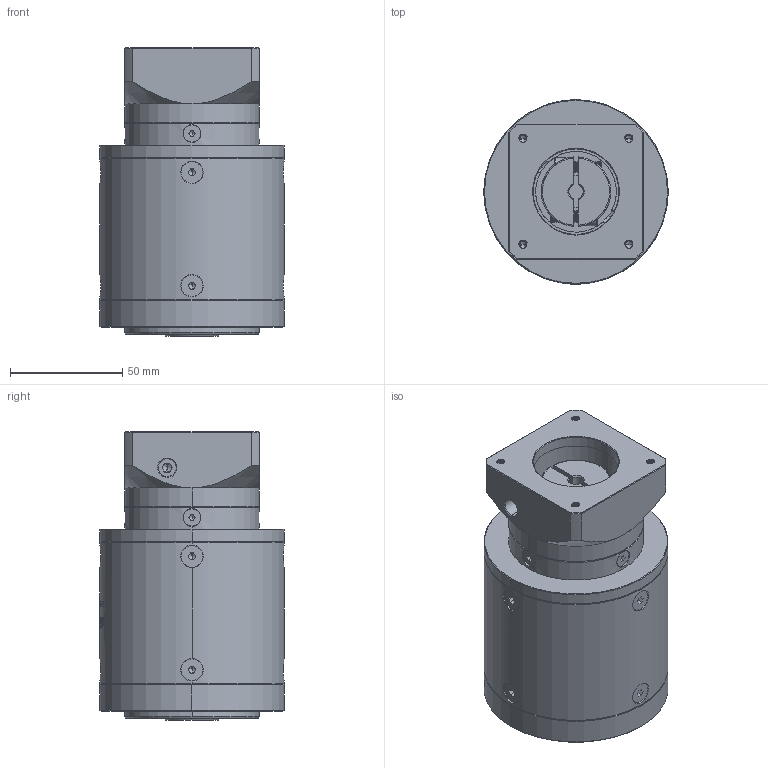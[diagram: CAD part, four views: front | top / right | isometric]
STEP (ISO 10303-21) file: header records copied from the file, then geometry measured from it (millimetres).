
FILE_DESCRIPTION (( 'STEP AP214' ), '1' );
FILE_NAME ('ZE80-K15-L3-6.35-38.1-47.14X47.14-M4.step', '2022-05-08T06:08:54', ( '' ), ( 'Microsoft' ), 'SwSTEP 2.0', 'SolidWorks 2016', '' );
FILE_SCHEMA (( 'AUTOMOTIVE_DESIGN' ));
Length unit declared in the file: millimetre
Products named in the file (1): ZE80-K15-L3-6.35-38.1-47.14X47.14-M4
Bounding box: 82 x 82 x 128.5 mm (x, y, z)
Volume: 534530.5 mm3; surface area: 67708 mm2
Topology: 18 solids, 18 shells, 2038 faces, 5372 edges, 3424 vertices
Faces by surface type: plane 936, cylinder 458, bspline 330, cone 300, torus 14
Entity records: 109934 total; most frequent: CARTESIAN_POINT 41049, ORIENTED_EDGE 10656, DIRECTION 8332, EDGE_CURVE 5328, VERTEX_POINT 3424, VECTOR 2856, LINE 2856, AXIS2_PLACEMENT_3D 2738
